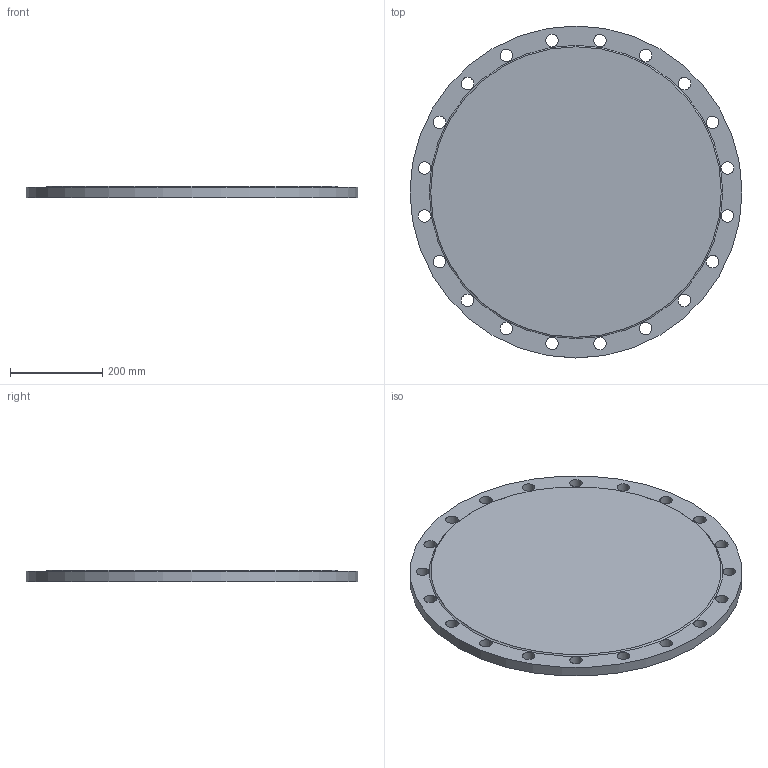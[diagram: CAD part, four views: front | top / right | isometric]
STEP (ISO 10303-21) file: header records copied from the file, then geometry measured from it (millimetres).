
FILE_DESCRIPTION(/* description */ (''),/* implementation_level */ '2;1');
FILE_NAME(/* name */ 'C:\Users\D\Documents\Inventor\HP\JIS\フランジ\JIS 5k bl rf\jis5k-bl-rf-550.stp',/* time_stamp */ '2024-09-12T16:51:58+09:00',/* author */ ('D'),/* organization */ (''),/* preprocessor_version */ 'ST-DEVELOPER v18',/* originating_system */ 'Autodesk Inventor 2020',/* authorisation */ '');
FILE_SCHEMA (('AUTOMOTIVE_DESIGN { 1 0 10303 214 3 1 1 }'));
Length unit declared in the file: millimetre
Products named in the file (1): jis5k-sop-rf-10
Bounding box: 720 x 720 x 26 mm (x, y, z)
Volume: 10040088.4 mm3; surface area: 885835.1 mm2
Topology: 1 solids, 1 shells, 25 faces, 70 edges, 48 vertices
Faces by surface type: cylinder 21, plane 3, torus 1
Full cylindrical faces by diameter (mm): 27 x20, 720 x1
Entity records: 966 total; most frequent: DIRECTION 171, CARTESIAN_POINT 144, ORIENTED_EDGE 140, AXIS2_PLACEMENT_3D 75, EDGE_CURVE 70, EDGE_LOOP 66, CIRCLE 49, VERTEX_POINT 48
